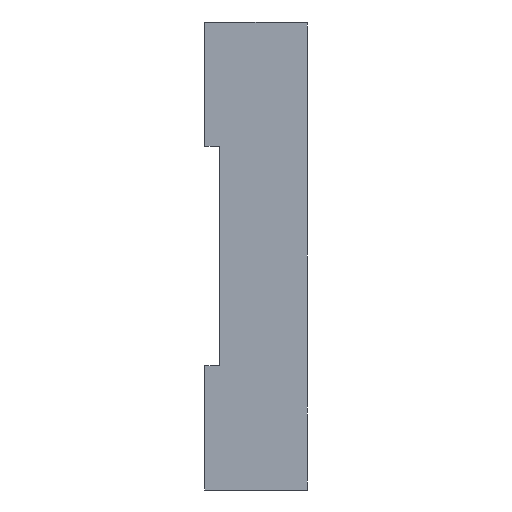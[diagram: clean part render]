
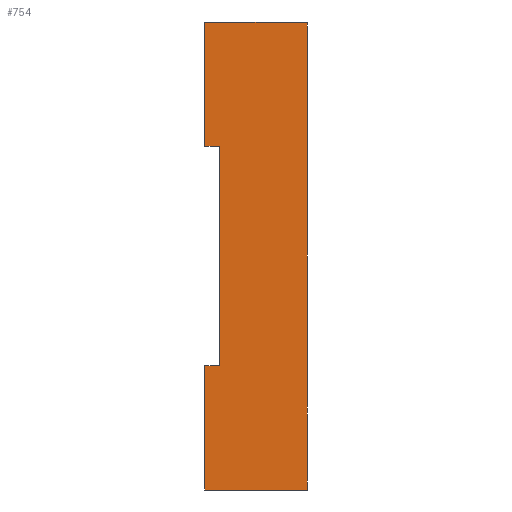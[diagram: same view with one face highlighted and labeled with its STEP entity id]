
A CAD part, left-side view. The second image highlights one B-rep face of the part: STEP entity #754.
In plain terms, the highlighted planar face has unit normal (-1, 0, 0).
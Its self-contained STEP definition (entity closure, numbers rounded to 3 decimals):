
#14 = EDGE_CURVE ( 'NONE', #498, #499, #267, .T. ) ;
#17 = EDGE_CURVE ( 'NONE', #501, #499, #274, .T. ) ;
#18 = EDGE_CURVE ( 'NONE', #68, #501, #276, .T. ) ;
#19 = EDGE_CURVE ( 'NONE', #68, #1919, #275, .T. ) ;
#20 = EDGE_CURVE ( 'NONE', #505, #1925, #280, .T. ) ;
#21 = EDGE_CURVE ( 'NONE', #69, #505, #278, .T. ) ;
#22 = EDGE_CURVE ( 'NONE', #69, #498, #282, .T. ) ;
#68 = VERTEX_POINT ( 'NONE', #2412 ) ;
#69 = VERTEX_POINT ( 'NONE', #2417 ) ;
#103 = EDGE_CURVE ( 'NONE', #1925, #1919, #402, .T. ) ;
#267 = LINE ( 'NONE', #2524, #273 ) ;
#273 = VECTOR ( 'NONE', #2298, 1000. ) ;
#274 = LINE ( 'NONE', #2304, #277 ) ;
#275 = LINE ( 'NONE', #2303, #281 ) ;
#276 = LINE ( 'NONE', #2308, #279 ) ;
#277 = VECTOR ( 'NONE', #2299, 1000. ) ;
#278 = LINE ( 'NONE', #2297, #285 ) ;
#279 = VECTOR ( 'NONE', #2310, 1000. ) ;
#280 = LINE ( 'NONE', #2312, #283 ) ;
#281 = VECTOR ( 'NONE', #2311, 1000. ) ;
#282 = LINE ( 'NONE', #2309, #287 ) ;
#283 = VECTOR ( 'NONE', #2314, 1000. ) ;
#285 = VECTOR ( 'NONE', #2315, 1000. ) ;
#287 = VECTOR ( 'NONE', #2317, 1000. ) ;
#402 = LINE ( 'NONE', #2484, #405 ) ;
#405 = VECTOR ( 'NONE', #2485, 1000. ) ;
#498 = VERTEX_POINT ( 'NONE', #2487 ) ;
#499 = VERTEX_POINT ( 'NONE', #2490 ) ;
#501 = VERTEX_POINT ( 'NONE', #2493 ) ;
#505 = VERTEX_POINT ( 'NONE', #2481 ) ;
#582 = CARTESIAN_POINT ( 'NONE',  ( -47., 12., 15. ) ) ;
#597 = CARTESIAN_POINT ( 'NONE',  ( -47., 12., -15. ) ) ;
#754 = ADVANCED_FACE ( 'NONE', ( #1730 ), #1353, .F. ) ;
#808 = ORIENTED_EDGE ( 'NONE', *, *, #20, .F. ) ;
#826 = ORIENTED_EDGE ( 'NONE', *, *, #21, .F. ) ;
#896 = ORIENTED_EDGE ( 'NONE', *, *, #14, .T. ) ;
#899 = ORIENTED_EDGE ( 'NONE', *, *, #19, .T. ) ;
#900 = ORIENTED_EDGE ( 'NONE', *, *, #22, .T. ) ;
#902 = ORIENTED_EDGE ( 'NONE', *, *, #103, .F. ) ;
#928 = ORIENTED_EDGE ( 'NONE', *, *, #18, .F. ) ;
#954 = ORIENTED_EDGE ( 'NONE', *, *, #17, .F. ) ;
#1011 = EDGE_LOOP ( 'NONE', ( #896, #954, #928, #899, #902, #808, #826, #900 ) ) ;
#1346 = CARTESIAN_POINT ( 'NONE',  ( -47., 12., -32. ) ) ;
#1353 = PLANE ( 'NONE',  #2283 ) ;
#1355 = DIRECTION ( 'NONE',  ( 1., 0., 0. ) ) ;
#1356 = DIRECTION ( 'NONE',  ( 0., 0., -1. ) ) ;
#1730 = FACE_OUTER_BOUND ( 'NONE', #1011, .T. ) ;
#1919 = VERTEX_POINT ( 'NONE', #582 ) ;
#1925 = VERTEX_POINT ( 'NONE', #597 ) ;
#2283 = AXIS2_PLACEMENT_3D ( 'NONE', #1346, #1355, #1356 ) ;
#2297 = CARTESIAN_POINT ( 'NONE',  ( -47., 14., -32. ) ) ;
#2298 = DIRECTION ( 'NONE',  ( 0., 0., 1. ) ) ;
#2299 = DIRECTION ( 'NONE',  ( 0., -1., 0. ) ) ;
#2303 = CARTESIAN_POINT ( 'NONE',  ( -47., 14., 15. ) ) ;
#2304 = CARTESIAN_POINT ( 'NONE',  ( -47., 12., 32. ) ) ;
#2308 = CARTESIAN_POINT ( 'NONE',  ( -47., 14., 32. ) ) ;
#2309 = CARTESIAN_POINT ( 'NONE',  ( -47., 12., -32. ) ) ;
#2310 = DIRECTION ( 'NONE',  ( 0., 0., 1. ) ) ;
#2311 = DIRECTION ( 'NONE',  ( 0., -1., 0. ) ) ;
#2312 = CARTESIAN_POINT ( 'NONE',  ( -47., 14., -15. ) ) ;
#2314 = DIRECTION ( 'NONE',  ( 0., -1., 0. ) ) ;
#2315 = DIRECTION ( 'NONE',  ( 0., 0., 1. ) ) ;
#2317 = DIRECTION ( 'NONE',  ( 0., -1., 0. ) ) ;
#2412 = CARTESIAN_POINT ( 'NONE',  ( -47., 14., 15. ) ) ;
#2417 = CARTESIAN_POINT ( 'NONE',  ( -47., 14., -32. ) ) ;
#2481 = CARTESIAN_POINT ( 'NONE',  ( -47., 14., -15. ) ) ;
#2484 = CARTESIAN_POINT ( 'NONE',  ( -47., 12., -32. ) ) ;
#2485 = DIRECTION ( 'NONE',  ( 0., 0., 1. ) ) ;
#2487 = CARTESIAN_POINT ( 'NONE',  ( -47., 0., -32. ) ) ;
#2490 = CARTESIAN_POINT ( 'NONE',  ( -47., 0., 32. ) ) ;
#2493 = CARTESIAN_POINT ( 'NONE',  ( -47., 14., 32. ) ) ;
#2524 = CARTESIAN_POINT ( 'NONE',  ( -47., 0., -32. ) ) ;
